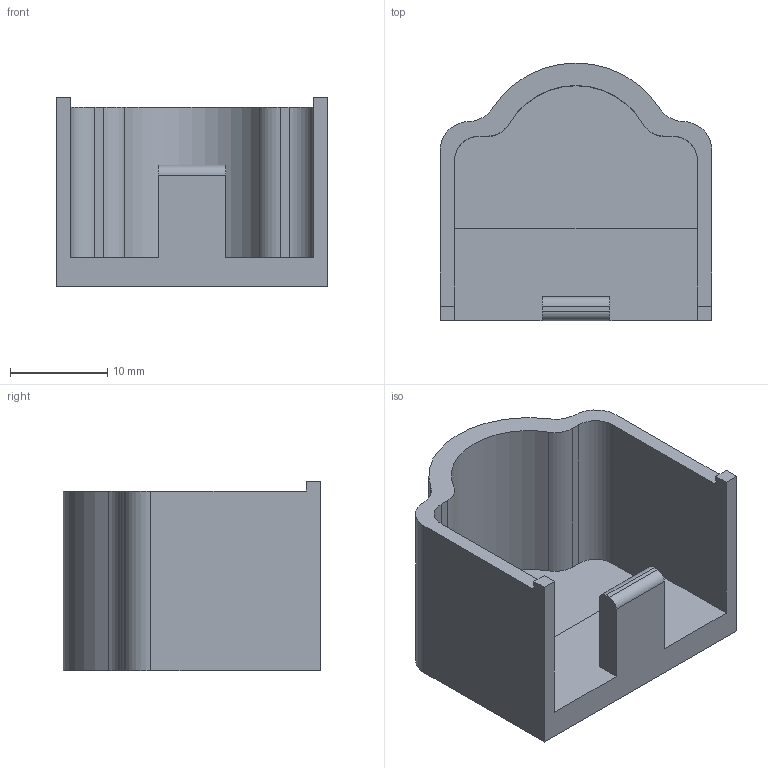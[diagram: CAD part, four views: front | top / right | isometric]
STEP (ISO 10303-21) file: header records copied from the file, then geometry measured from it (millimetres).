
FILE_DESCRIPTION(/* description */ (''),/* implementation_level */ '2;1');
FILE_NAME(/* name */ 'C:\Users\user\Desktop\Cubierta Sensor\Part1.stp',/* time_stamp */ '2018-06-09T12:37:21-05:00',/* author */ ('user'),/* organization */ (''),/* preprocessor_version */ 'ST-DEVELOPER v16.5',/* originating_system */ 'Autodesk Inventor 2017',/* authorisation */ '');
FILE_SCHEMA (('AUTOMOTIVE_DESIGN { 1 0 10303 214 3 1 1 }'));
Length unit declared in the file: millimetre
Products named in the file (1): Part1
Bounding box: 28 x 26.53 x 19.5 mm (x, y, z)
Volume: 3436 mm3; surface area: 4068.8 mm2
Topology: 1 solids, 1 shells, 32 faces, 90 edges, 60 vertices
Faces by surface type: plane 20, cylinder 12
Entity records: 1068 total; most frequent: CARTESIAN_POINT 183, ORIENTED_EDGE 180, DIRECTION 180, EDGE_CURVE 90, LINE 66, VECTOR 66, VERTEX_POINT 60, AXIS2_PLACEMENT_3D 57
